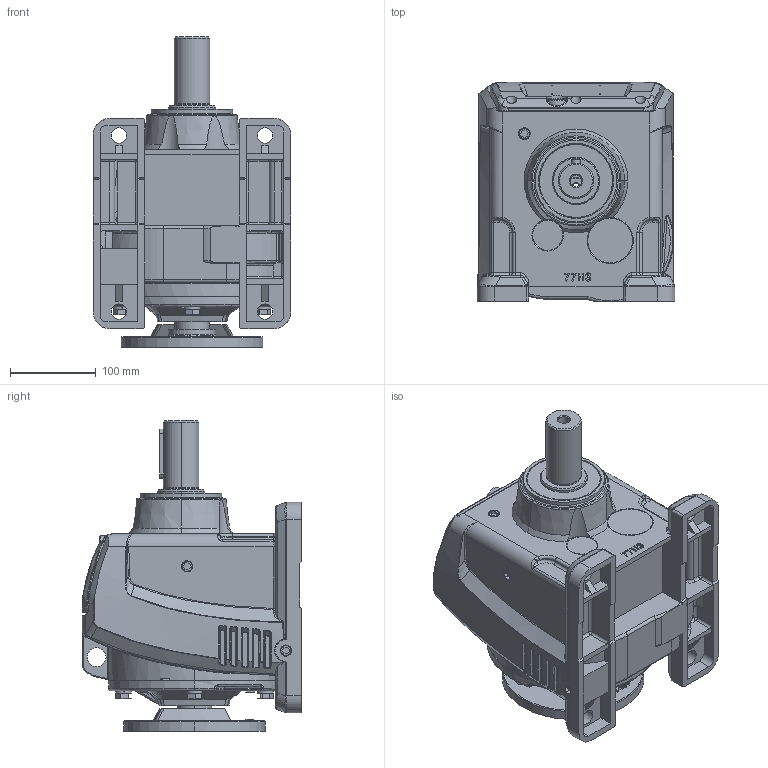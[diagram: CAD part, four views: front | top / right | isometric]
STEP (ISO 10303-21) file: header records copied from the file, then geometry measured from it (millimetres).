
FILE_DESCRIPTION (( 'STEP AP203' ), '1' );
FILE_NAME ('WINL77-145TC.STEP', '2013-09-26T09:24:03', ( 'User' ), ( 'Chenta' ), 'SwSTEP 2.0', 'SolidWorks 2011', '' );
FILE_SCHEMA (( 'CONFIG_CONTROL_DESIGN' ));
Products named in the file (1): WINL77-145TC
Bounding box: 230 x 255.34 x 361.5 mm (x, y, z)
Surface area: 500389.9 mm2 (no closed solid volume)
Topology: 0 solids, 33 shells, 1252 faces, 3686 edges, 2405 vertices
Faces by surface type: plane 400, bspline 345, cylinder 327, cone 84, torus 67, sphere 29
Entity records: 60033 total; most frequent: CARTESIAN_POINT 29781, ORIENTED_EDGE 6481, DIRECTION 5532, EDGE_CURVE 3670, VERTEX_POINT 2405, AXIS2_PLACEMENT_3D 2034, VECTOR 1464, LINE 1464
